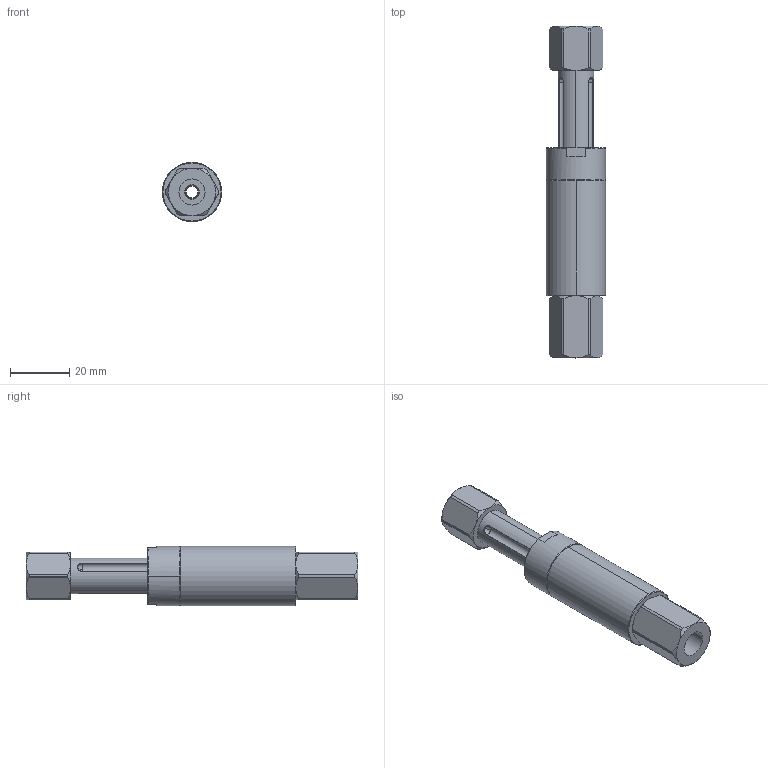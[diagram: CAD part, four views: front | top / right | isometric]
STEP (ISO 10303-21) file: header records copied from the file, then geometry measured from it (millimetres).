
FILE_DESCRIPTION (( 'STEP AP214' ), '1' );
FILE_NAME ('VFN2026-G18.STEP', '2019-11-15T05:31:39', ( '微软用户' ), ( '微软中国' ), 'SwSTEP 2.0', 'SolidWorks 2016', '' );
FILE_SCHEMA (( 'AUTOMOTIVE_DESIGN' ));
Length unit declared in the file: millimetre
Products named in the file (1): VFN2026-G18
Bounding box: 20 x 112 x 20 mm (x, y, z)
Volume: 22361.1 mm3; surface area: 15588 mm2
Topology: 5 solids, 5 shells, 264 faces, 612 edges, 359 vertices
Faces by surface type: cone 107, cylinder 94, plane 43, bspline 20
Entity records: 15985 total; most frequent: CARTESIAN_POINT 7094, DIRECTION 1293, ORIENTED_EDGE 1200, EDGE_CURVE 600, AXIS2_PLACEMENT_3D 538, VERTEX_POINT 359, CIRCLE 293, EDGE_LOOP 291
